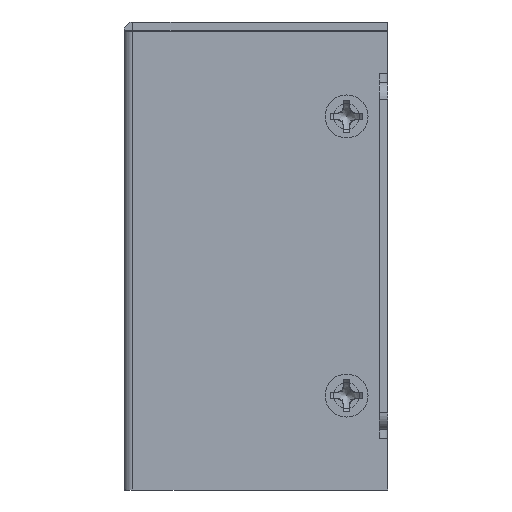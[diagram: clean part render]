
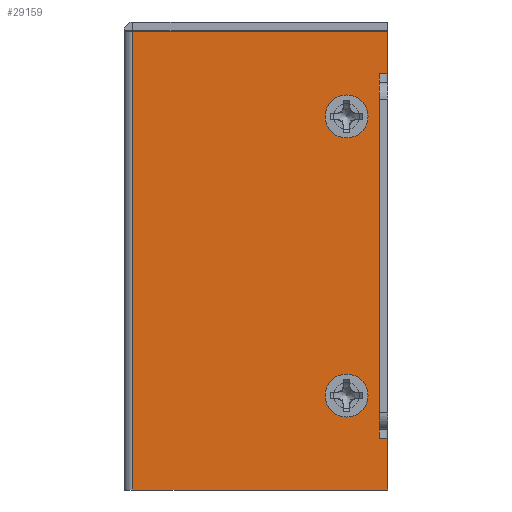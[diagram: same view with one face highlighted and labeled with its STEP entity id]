
A CAD part, left-side view. The second image highlights one B-rep face of the part: STEP entity #29159.
In plain terms, the highlighted planar face has unit normal (-1, 0, 0).
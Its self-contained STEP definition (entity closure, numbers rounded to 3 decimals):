
#272=FACE_BOUND('',#3232,.T.);
#273=FACE_BOUND('',#3233,.T.);
#467=PLANE('',#30932);
#1568=FACE_OUTER_BOUND('',#3231,.T.);
#3231=EDGE_LOOP('',(#20153,#20154,#20155,#20156,#20157,#20158,#20159,#20160,
#20161,#20162));
#3232=EDGE_LOOP('',(#20163,#20164));
#3233=EDGE_LOOP('',(#20165,#20166));
#4917=CIRCLE('',#30840,2.5);
#4918=CIRCLE('',#30841,2.5);
#4921=CIRCLE('',#30845,2.5);
#4922=CIRCLE('',#30846,2.5);
#6532=LINE('',#44508,#9430);
#6535=LINE('',#44514,#9433);
#6538=LINE('',#44518,#9436);
#6539=LINE('',#44522,#9437);
#6542=LINE('',#44528,#9440);
#6545=LINE('',#44532,#9443);
#6546=LINE('',#44535,#9444);
#6547=LINE('',#44537,#9445);
#6548=LINE('',#44538,#9446);
#6549=LINE('',#44539,#9447);
#9430=VECTOR('',#34227,10.);
#9433=VECTOR('',#34232,10.);
#9436=VECTOR('',#34237,10.);
#9437=VECTOR('',#34240,10.);
#9440=VECTOR('',#34245,0.365);
#9443=VECTOR('',#34250,10.);
#9444=VECTOR('',#34253,10.);
#9445=VECTOR('',#34254,10.);
#9446=VECTOR('',#34255,10.);
#9447=VECTOR('',#34256,10.);
#12145=VERTEX_POINT('',#43795);
#12323=VERTEX_POINT('',#44280);
#12324=VERTEX_POINT('',#44282);
#12327=VERTEX_POINT('',#44290);
#12328=VERTEX_POINT('',#44292);
#12401=VERTEX_POINT('',#44507);
#12402=VERTEX_POINT('',#44512);
#12403=VERTEX_POINT('',#44513);
#12404=VERTEX_POINT('',#44520);
#12405=VERTEX_POINT('',#44521);
#12406=VERTEX_POINT('',#44526);
#12407=VERTEX_POINT('',#44527);
#12408=VERTEX_POINT('',#44534);
#12409=VERTEX_POINT('',#44536);
#15319=EDGE_CURVE('',#12323,#12324,#4917,.T.);
#15320=EDGE_CURVE('',#12324,#12323,#4918,.T.);
#15324=EDGE_CURVE('',#12327,#12328,#4921,.T.);
#15325=EDGE_CURVE('',#12328,#12327,#4922,.T.);
#15431=EDGE_CURVE('',#12401,#12145,#6532,.T.);
#15434=EDGE_CURVE('',#12402,#12403,#6535,.T.);
#15437=EDGE_CURVE('',#12403,#12401,#6538,.T.);
#15438=EDGE_CURVE('',#12404,#12405,#6539,.T.);
#15441=EDGE_CURVE('',#12406,#12407,#6542,.T.);
#15444=EDGE_CURVE('',#12407,#12405,#6545,.T.);
#15445=EDGE_CURVE('',#12404,#12408,#6546,.T.);
#15446=EDGE_CURVE('',#12408,#12409,#6547,.T.);
#15447=EDGE_CURVE('',#12409,#12402,#6548,.T.);
#15448=EDGE_CURVE('',#12145,#12406,#6549,.T.);
#20153=ORIENTED_EDGE('',*,*,#15444,.T.);
#20154=ORIENTED_EDGE('',*,*,#15438,.F.);
#20155=ORIENTED_EDGE('',*,*,#15445,.T.);
#20156=ORIENTED_EDGE('',*,*,#15446,.T.);
#20157=ORIENTED_EDGE('',*,*,#15447,.T.);
#20158=ORIENTED_EDGE('',*,*,#15434,.T.);
#20159=ORIENTED_EDGE('',*,*,#15437,.T.);
#20160=ORIENTED_EDGE('',*,*,#15431,.T.);
#20161=ORIENTED_EDGE('',*,*,#15448,.T.);
#20162=ORIENTED_EDGE('',*,*,#15441,.T.);
#20163=ORIENTED_EDGE('',*,*,#15319,.F.);
#20164=ORIENTED_EDGE('',*,*,#15320,.F.);
#20165=ORIENTED_EDGE('',*,*,#15324,.F.);
#20166=ORIENTED_EDGE('',*,*,#15325,.F.);
#29159=ADVANCED_FACE('',(#1568,#272,#273),#467,.T.);
#30840=AXIS2_PLACEMENT_3D('',#44283,#33992,#33993);
#30841=AXIS2_PLACEMENT_3D('',#44284,#33994,#33995);
#30845=AXIS2_PLACEMENT_3D('',#44293,#34003,#34004);
#30846=AXIS2_PLACEMENT_3D('',#44294,#34005,#34006);
#30932=AXIS2_PLACEMENT_3D('',#44533,#34251,#34252);
#33992=DIRECTION('center_axis',(-1.,0.,0.));
#33993=DIRECTION('ref_axis',(0.,1.,0.));
#33994=DIRECTION('center_axis',(-1.,0.,0.));
#33995=DIRECTION('ref_axis',(0.,1.,0.));
#34003=DIRECTION('center_axis',(-1.,0.,0.));
#34004=DIRECTION('ref_axis',(0.,1.,0.));
#34005=DIRECTION('center_axis',(-1.,0.,0.));
#34006=DIRECTION('ref_axis',(0.,1.,0.));
#34227=DIRECTION('',(0.,1.,0.));
#34232=DIRECTION('',(0.,-1.,0.));
#34237=DIRECTION('',(0.,0.,1.));
#34240=DIRECTION('',(0.,-1.,0.));
#34245=DIRECTION('',(0.,-1.,0.));
#34250=DIRECTION('',(0.,0.,1.));
#34251=DIRECTION('center_axis',(-1.,0.,0.));
#34252=DIRECTION('ref_axis',(0.,0.,1.));
#34253=DIRECTION('',(0.,0.,1.));
#34254=DIRECTION('',(0.,0.,1.));
#34255=DIRECTION('',(0.,0.,1.));
#34256=DIRECTION('',(0.,0.,-1.));
#43795=CARTESIAN_POINT('',(-2.,29.69,52.393));
#44280=CARTESIAN_POINT('',(-2.,2.3,42.5));
#44282=CARTESIAN_POINT('',(-2.,4.8,40.));
#44283=CARTESIAN_POINT('Origin',(-2.,4.8,42.5));
#44284=CARTESIAN_POINT('Origin',(-2.,4.8,42.5));
#44290=CARTESIAN_POINT('',(-2.,2.3,10.));
#44292=CARTESIAN_POINT('',(-2.,4.8,7.5));
#44293=CARTESIAN_POINT('Origin',(-2.,4.8,10.));
#44294=CARTESIAN_POINT('Origin',(-2.,4.8,10.));
#44507=CARTESIAN_POINT('',(-2.,0.01,52.393));
#44508=CARTESIAN_POINT('',(-2.,29.69,52.393));
#44512=CARTESIAN_POINT('',(-2.,1.01,47.493));
#44513=CARTESIAN_POINT('',(-2.,0.01,47.493));
#44514=CARTESIAN_POINT('',(-2.,1.01,47.493));
#44518=CARTESIAN_POINT('',(-2.,0.01,47.493));
#44520=CARTESIAN_POINT('',(-2.,1.01,5.));
#44521=CARTESIAN_POINT('',(-2.,0.01,5.));
#44522=CARTESIAN_POINT('',(-2.,1.01,5.));
#44526=CARTESIAN_POINT('',(-2.,29.69,-1.));
#44527=CARTESIAN_POINT('',(-2.,0.01,-1.));
#44528=CARTESIAN_POINT('',(-2.,30.837,-1.));
#44532=CARTESIAN_POINT('',(-2.,0.01,-1.));
#44533=CARTESIAN_POINT('Origin',(-2.,0.51,2.));
#44534=CARTESIAN_POINT('',(-2.,1.01,6.));
#44535=CARTESIAN_POINT('',(-2.,1.01,12.198));
#44536=CARTESIAN_POINT('',(-2.,1.01,46.493));
#44537=CARTESIAN_POINT('',(-2.,1.01,12.198));
#44538=CARTESIAN_POINT('',(-2.,1.01,12.198));
#44539=CARTESIAN_POINT('',(-2.,29.69,25.396));
